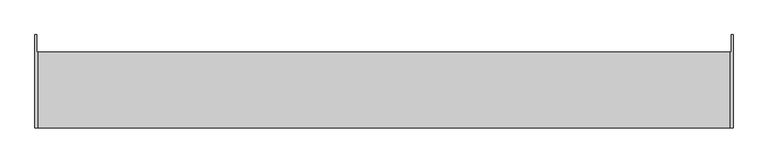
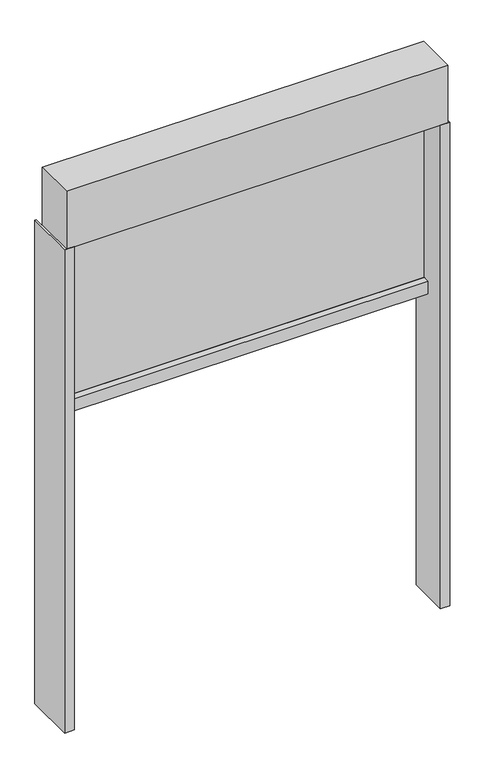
"""IFC4 building model written with IfcOpenShell, lengths in millimetres: proxy geometry, Renson_Fixscreen_Minimal_Single : Recessed - Front of the window - Medium - Access downwards - Fabric close to the window."""

from ifc_helpers import new_model, si_unit, point, frame, frame_2d, origin, origin_with_axes, place, context, project, spatial, polyline, circle_curve, trimmed, segment, composite_curve, outline, extrude, source, transform, mapped, element, save


def generic_models_e03154b1(model_context):
    return source(origin(), model_context, "Body", "SweptSolid", [
        extrude(outline(polyline([(502.0, 693.5958591), (502.0, 718.5959909), (505.0, 718.5959909), (505.0, 583.5958591), (480.0, 583.5958591), (480.0, 693.5958591), (502.0, 693.5958591)])), origin_with_axes(), (0.0, 0.0, 1.0), 1340.0),
        extrude(outline(polyline([(-502.0, 693.5958591), (-480.0, 693.5958591), (-480.0, 583.5958591), (-505.0, 583.5958591), (-505.0, 718.5959909), (-502.0, 718.5959909), (-502.0, 693.5958591)])), origin_with_axes(), (0.0, 0.0, 1.0), 1340.0),
        extrude(outline(composite_curve([segment(polyline([(678.5959909, 840.0), (638.0960943, 840.0), (638.0960943, 874.1156826), (655.2198229, 875.0)]), True, "CONTINUOUS"), segment(trimmed(circle_curve(frame_2d((655.2459909, 874.5006852)), 0.5), [point((655.2198229, 875.0))], [point((655.7459909, 874.5006852))], False, "CARTESIAN"), True, "CONTINUOUS"), segment(polyline([(655.7459909, 874.5006852), (655.7459909, 873.5367989), (654.4808525, 873.5367989), (655.221156, 869.0119223)]), True, "CONTINUOUS"), segment(trimmed(circle_curve(frame_2d((615.7459909, 862.5534911)), 40.0), [point((655.221156, 869.0119223))], [point((655.7459909, 862.5534911))], False, "CARTESIAN"), True, "CONTINUOUS"), segment(polyline([(655.7459909, 862.5534911), (655.7459909, 854.5006852)]), True, "CONTINUOUS"), segment(trimmed(circle_curve(frame_2d((657.7459909, 854.5006852)), 2.0), [point((655.7459909, 854.5006852))], [point((657.7459909, 852.5006852))], True, "CARTESIAN"), True, "CONTINUOUS"), segment(polyline([(657.7459909, 852.5006852), (659.4459909, 852.5006852)]), True, "CONTINUOUS"), segment(trimmed(circle_curve(frame_2d((659.4459909, 854.5006852)), 2.0), [point((659.4459909, 852.5006852))], [point((661.4459909, 854.5006852))], True, "CARTESIAN"), True, "CONTINUOUS"), segment(polyline([(661.4459909, 854.5006852), (661.4459909, 862.5534911)]), True, "CONTINUOUS"), segment(trimmed(circle_curve(frame_2d((701.4459909, 862.5534911)), 40.0), [point((661.4459909, 862.5534911))], [point((661.9708257, 869.0119223))], False, "CARTESIAN"), True, "CONTINUOUS"), segment(polyline([(661.9708257, 869.0119223), (662.7111292, 873.5367989), (661.4459909, 873.5367989), (661.4459909, 874.5006852)]), True, "CONTINUOUS"), segment(trimmed(circle_curve(frame_2d((661.9459909, 874.5006852)), 0.5), [point((661.4459909, 874.5006852))], [point((661.9721588, 875.0))], False, "CARTESIAN"), True, "CONTINUOUS"), segment(polyline([(661.9721588, 875.0), (678.5959909, 874.1156826), (678.5959909, 840.0)]), True, "CONTINUOUS")], self_intersect=False)), frame((-480.0, 0.0, 0.0), z_axis=(1.0, 0.0, 0.0), x_axis=(0.0, 1.0, 0.0)), (0.0, 0.0, 1.0), 960.0),
        extrude(outline(polyline([(-500.0, 583.5959909), (-500.0, 693.5959909), (500.0, 693.5959909), (500.0, 583.5959909), (-500.0, 583.5959909)])), frame((0.0, 0.0, 1340.0), z_axis=(0.0, 0.0, 1.0), x_axis=(1.0, 0.0, 0.0)), (0.0, 0.0, 1.0), 160.0),
        extrude(outline(polyline([(-480.0, 660.0959909), (480.0, 660.0959909), (480.0, 657.0959909), (-480.0, 657.0959909), (-480.0, 660.0959909)])), frame((0.0, 0.0, 852.5006852), z_axis=(0.0, 0.0, 1.0), x_axis=(1.0, 0.0, 0.0)), (0.0, 0.0, 1.0), 487.4993148),
    ])


if __name__ == "__main__":
    model = new_model("IFC4")
    model_context = context("Model", 3, world=origin())
    ifc_project = project(units=[si_unit("LENGTHUNIT", "METRE", prefix="MILLI")], contexts=[model_context])
    site = spatial("IfcSite", under=ifc_project)
    building = spatial("IfcBuilding", under=site)
    placement = place(None, origin())
    generic_models_shape = generic_models_e03154b1(model_context)
    element("IfcBuildingElementProxy", 1, Name="Renson_Fixscreen_Minimal_Single : Recessed - Front of the window - Medium - Access downwards - Fabric close to the window", ObjectType="Renson_Fixscreen_Minimal_Single : Recessed - Front of the window - Medium - Access downwards - Fabric close to the window", at=placement, inside=building, context=model_context, shape_type="MappedRepresentation", body=[
        mapped(generic_models_shape, transform((0.0, 0.0, 0.0), x_axis=(1.0, 0.0, 0.0), y_axis=(0.0, 1.0, 0.0), z_axis=(0.0, 0.0, 1.0))),
    ])
    save(model, "model.ifc")
